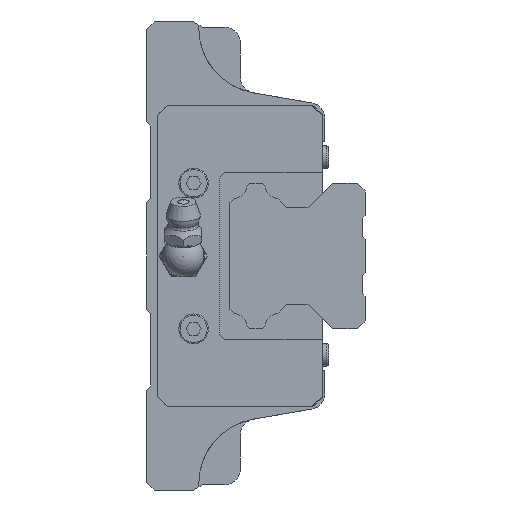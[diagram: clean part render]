
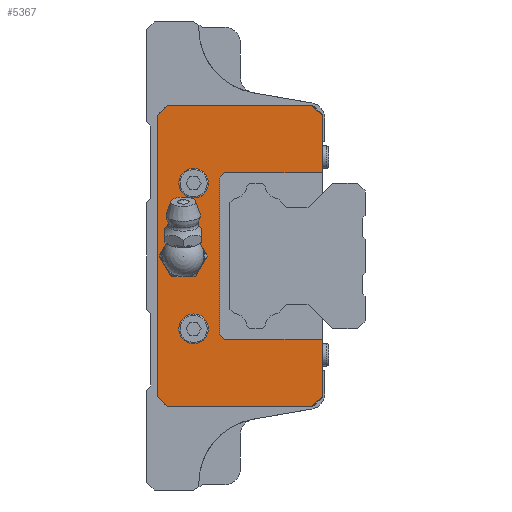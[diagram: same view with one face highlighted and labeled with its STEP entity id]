
A CAD part, left-side view. The second image highlights one B-rep face of the part: STEP entity #5367.
In plain terms, the highlighted planar face has unit normal (-1, 0, 0).
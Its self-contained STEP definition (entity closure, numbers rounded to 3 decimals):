
#247=CIRCLE('',#5829,3.);
#248=CIRCLE('',#5830,2.85);
#249=CIRCLE('',#5831,2.85);
#403=LINE('',#7863,#955);
#428=LINE('',#7919,#980);
#440=LINE('',#7945,#992);
#476=LINE('',#8021,#1028);
#500=LINE('',#8067,#1052);
#518=LINE('',#8113,#1070);
#536=LINE('',#8150,#1088);
#711=LINE('',#8689,#1263);
#713=LINE('',#8692,#1265);
#720=LINE('',#8717,#1272);
#721=LINE('',#8720,#1273);
#722=LINE('',#8721,#1274);
#723=LINE('',#8723,#1275);
#724=LINE('',#8725,#1276);
#955=VECTOR('',#6359,1000.);
#980=VECTOR('',#6392,1000.);
#992=VECTOR('',#6412,1000.);
#1028=VECTOR('',#6468,1000.);
#1052=VECTOR('',#6514,1000.);
#1070=VECTOR('',#6548,1000.);
#1088=VECTOR('',#6572,1000.);
#1263=VECTOR('',#6991,1000.);
#1265=VECTOR('',#6995,1000.);
#1272=VECTOR('',#7018,1000.);
#1273=VECTOR('',#7019,1000.);
#1274=VECTOR('',#7020,1000.);
#1275=VECTOR('',#7021,1000.);
#1276=VECTOR('',#7022,1000.);
#2378=ORIENTED_EDGE('',*,*,#3473,.T.);
#2379=ORIENTED_EDGE('',*,*,#3474,.F.);
#2380=ORIENTED_EDGE('',*,*,#3475,.F.);
#2381=ORIENTED_EDGE('',*,*,#3476,.T.);
#2382=ORIENTED_EDGE('',*,*,#3477,.T.);
#2383=ORIENTED_EDGE('',*,*,#3222,.F.);
#2384=ORIENTED_EDGE('',*,*,#3461,.T.);
#2385=ORIENTED_EDGE('',*,*,#3116,.F.);
#2386=ORIENTED_EDGE('',*,*,#3103,.F.);
#2387=ORIENTED_EDGE('',*,*,#3180,.F.);
#2388=ORIENTED_EDGE('',*,*,#3076,.F.);
#2389=ORIENTED_EDGE('',*,*,#3154,.F.);
#2390=ORIENTED_EDGE('',*,*,#3463,.T.);
#2391=ORIENTED_EDGE('',*,*,#3202,.F.);
#2392=ORIENTED_EDGE('',*,*,#3478,.T.);
#2393=ORIENTED_EDGE('',*,*,#3479,.T.);
#2394=ORIENTED_EDGE('',*,*,#3480,.T.);
#3076=EDGE_CURVE('',#3786,#3787,#403,.T.);
#3103=EDGE_CURVE('',#3813,#3814,#428,.T.);
#3116=EDGE_CURVE('',#3814,#3824,#440,.T.);
#3154=EDGE_CURVE('',#3853,#3786,#476,.T.);
#3180=EDGE_CURVE('',#3787,#3813,#500,.T.);
#3202=EDGE_CURVE('',#3884,#3885,#518,.T.);
#3222=EDGE_CURVE('',#3900,#3901,#536,.T.);
#3461=EDGE_CURVE('',#3900,#3824,#711,.T.);
#3463=EDGE_CURVE('',#3853,#3885,#713,.T.);
#3473=EDGE_CURVE('',#4078,#4078,#247,.T.);
#3474=EDGE_CURVE('',#4079,#4079,#248,.F.);
#3475=EDGE_CURVE('',#4080,#4080,#249,.F.);
#3476=EDGE_CURVE('',#4081,#4082,#720,.T.);
#3477=EDGE_CURVE('',#4082,#3901,#721,.T.);
#3478=EDGE_CURVE('',#3884,#4083,#722,.T.);
#3479=EDGE_CURVE('',#4083,#4084,#723,.T.);
#3480=EDGE_CURVE('',#4084,#4081,#724,.T.);
#3786=VERTEX_POINT('',#7862);
#3787=VERTEX_POINT('',#7864);
#3813=VERTEX_POINT('',#7918);
#3814=VERTEX_POINT('',#7920);
#3824=VERTEX_POINT('',#7946);
#3853=VERTEX_POINT('',#8020);
#3884=VERTEX_POINT('',#8112);
#3885=VERTEX_POINT('',#8114);
#3900=VERTEX_POINT('',#8149);
#3901=VERTEX_POINT('',#8151);
#4078=VERTEX_POINT('',#8712);
#4079=VERTEX_POINT('',#8714);
#4080=VERTEX_POINT('',#8716);
#4081=VERTEX_POINT('',#8718);
#4082=VERTEX_POINT('',#8719);
#4083=VERTEX_POINT('',#8722);
#4084=VERTEX_POINT('',#8724);
#4422=EDGE_LOOP('',(#2378));
#4423=EDGE_LOOP('',(#2379));
#4424=EDGE_LOOP('',(#2380));
#4425=EDGE_LOOP('',(#2381,#2382,#2383,#2384,#2385,#2386,#2387,#2388,#2389,
#2390,#2391,#2392,#2393,#2394));
#4801=FACE_BOUND('',#4422,.T.);
#4802=FACE_BOUND('',#4423,.T.);
#4803=FACE_BOUND('',#4424,.T.);
#4804=FACE_BOUND('',#4425,.T.);
#5111=PLANE('',#5828);
#5367=ADVANCED_FACE('',(#4801,#4802,#4803,#4804),#5111,.F.);
#5828=AXIS2_PLACEMENT_3D('',#8710,#7010,#7011);
#5829=AXIS2_PLACEMENT_3D('',#8711,#7012,#7013);
#5830=AXIS2_PLACEMENT_3D('',#8713,#7014,#7015);
#5831=AXIS2_PLACEMENT_3D('',#8715,#7016,#7017);
#6359=DIRECTION('',(0.,0.707,0.707));
#6392=DIRECTION('',(0.,-0.707,0.707));
#6412=DIRECTION('',(0.,-1.,0.));
#6468=DIRECTION('',(0.,1.,0.));
#6514=DIRECTION('',(0.,0.,1.));
#6548=DIRECTION('',(0.,0.,-1.));
#6572=DIRECTION('',(0.,0.,-1.));
#6991=DIRECTION('',(0.,0.707,0.707));
#6995=DIRECTION('',(0.,-0.707,0.707));
#7010=DIRECTION('',(1.,0.,0.));
#7011=DIRECTION('',(0.,0.,-1.));
#7012=DIRECTION('',(1.,0.,0.));
#7013=DIRECTION('',(0.,0.,-1.));
#7014=DIRECTION('',(1.,0.,0.));
#7015=DIRECTION('',(0.,0.,-1.));
#7016=DIRECTION('',(1.,0.,0.));
#7017=DIRECTION('',(0.,0.,-1.));
#7018=DIRECTION('',(0.,-0.707,0.707));
#7019=DIRECTION('',(0.,-1.,0.));
#7020=DIRECTION('',(0.,1.,0.));
#7021=DIRECTION('',(0.,0.707,0.707));
#7022=DIRECTION('',(0.,0.,1.));
#7862=CARTESIAN_POINT('',(-47.45,31.,-29.));
#7863=CARTESIAN_POINT('',(-47.45,31.,-29.));
#7864=CARTESIAN_POINT('',(-47.45,33.,-27.));
#7918=CARTESIAN_POINT('',(-47.45,33.,27.));
#7919=CARTESIAN_POINT('',(-47.45,33.,27.));
#7920=CARTESIAN_POINT('',(-47.45,31.,29.));
#7945=CARTESIAN_POINT('',(-47.45,35.,29.));
#7946=CARTESIAN_POINT('',(-47.45,3.283,29.));
#8020=CARTESIAN_POINT('',(-47.45,3.283,-29.));
#8021=CARTESIAN_POINT('',(-47.45,0.,-29.));
#8067=CARTESIAN_POINT('',(-47.45,33.,-27.));
#8112=CARTESIAN_POINT('',(-47.45,1.283,-16.));
#8113=CARTESIAN_POINT('',(-47.45,1.283,22.));
#8114=CARTESIAN_POINT('',(-47.45,1.283,-27.));
#8149=CARTESIAN_POINT('',(-47.45,1.283,27.));
#8150=CARTESIAN_POINT('',(-47.45,1.283,22.));
#8151=CARTESIAN_POINT('',(-47.45,1.283,16.));
#8689=CARTESIAN_POINT('',(-47.45,3.283,29.));
#8692=CARTESIAN_POINT('',(-47.45,1.283,-27.));
#8710=CARTESIAN_POINT('',(-47.45,0.,0.));
#8711=CARTESIAN_POINT('',(-47.45,28.,0.));
#8712=CARTESIAN_POINT('',(-47.45,28.,-3.));
#8713=CARTESIAN_POINT('',(-47.45,26.,14.));
#8714=CARTESIAN_POINT('',(-47.45,26.,11.15));
#8715=CARTESIAN_POINT('',(-47.45,26.,-14.));
#8716=CARTESIAN_POINT('',(-47.45,26.,-16.85));
#8717=CARTESIAN_POINT('',(-47.45,21.,15.));
#8718=CARTESIAN_POINT('',(-47.45,21.,15.));
#8719=CARTESIAN_POINT('',(-47.45,20.,16.));
#8720=CARTESIAN_POINT('',(-47.45,20.,16.));
#8721=CARTESIAN_POINT('',(-47.45,1.283,-16.));
#8722=CARTESIAN_POINT('',(-47.45,20.,-16.));
#8723=CARTESIAN_POINT('',(-47.45,20.,-16.));
#8724=CARTESIAN_POINT('',(-47.45,21.,-15.));
#8725=CARTESIAN_POINT('',(-47.45,21.,-15.));
